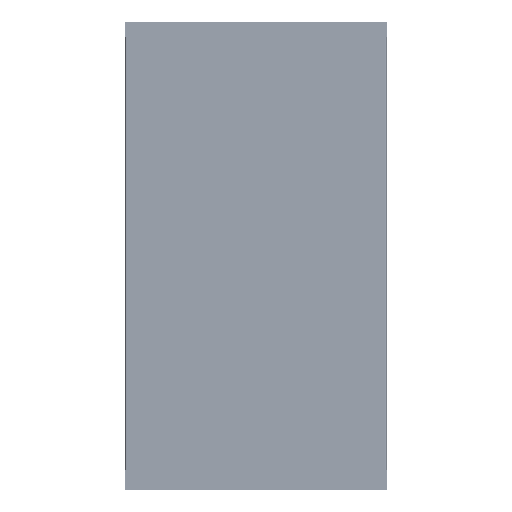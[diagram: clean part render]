
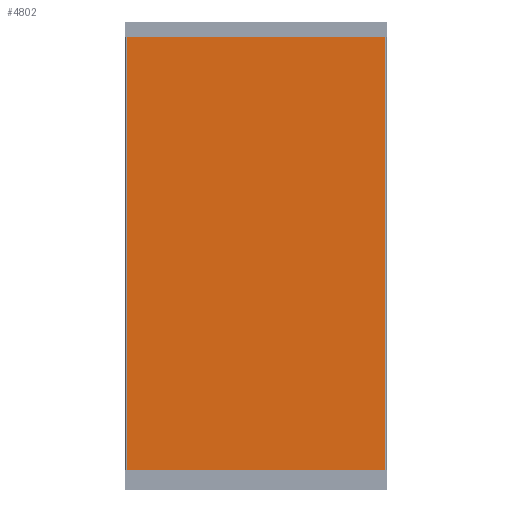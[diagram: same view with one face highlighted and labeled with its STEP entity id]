
A CAD part, left-side view. The second image highlights one B-rep face of the part: STEP entity #4802.
In plain terms, the highlighted planar face has unit normal (-1, 0, 0) as drawn and (0, -1, 0) by its records, which use the part's own axes.
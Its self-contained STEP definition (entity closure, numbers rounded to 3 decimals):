
#4802=ADVANCED_FACE('',(#9895,#9897,#9899),#9901,.T.);
#9895=FACE_BOUND('',#9896,.T.);
#9896=EDGE_LOOP('',(#33392,#33393,#33394,#33395,#33396,#33397,#33398,#33399,#33400,
#33401,#33402,#33403));
#9897=FACE_BOUND('',#9898,.T.);
#9898=EDGE_LOOP('',(#33404));
#9899=FACE_BOUND('',#9900,.T.);
#9900=EDGE_LOOP('',(#33405));
#9901=PLANE('',#9902);
#9902=AXIS2_PLACEMENT_3D('',#9903,#9904,#9905);
#9903=CARTESIAN_POINT('',(0.,-2.,0.));
#9904=DIRECTION('',(0.,-1.,0.));
#9905=DIRECTION('',(1.,0.,0.));
#33392=ORIENTED_EDGE('',*,*,#46708,.T.);
#33393=ORIENTED_EDGE('',*,*,#46709,.T.);
#33394=ORIENTED_EDGE('',*,*,#46710,.T.);
#33395=ORIENTED_EDGE('',*,*,#46711,.T.);
#33396=ORIENTED_EDGE('',*,*,#46712,.T.);
#33397=ORIENTED_EDGE('',*,*,#46713,.T.);
#33398=ORIENTED_EDGE('',*,*,#46714,.T.);
#33399=ORIENTED_EDGE('',*,*,#46611,.T.);
#33400=ORIENTED_EDGE('',*,*,#46715,.T.);
#33401=ORIENTED_EDGE('',*,*,#46716,.T.);
#33402=ORIENTED_EDGE('',*,*,#46717,.T.);
#33403=ORIENTED_EDGE('',*,*,#46718,.T.);
#33404=ORIENTED_EDGE('',*,*,#46719,.T.);
#33405=ORIENTED_EDGE('',*,*,#46720,.T.);
#46611=EDGE_CURVE('',#53201,#53199,#53202,.T.);
#46708=EDGE_CURVE('',#53305,#53306,#53307,.T.);
#46709=EDGE_CURVE('',#53306,#53308,#53309,.T.);
#46710=EDGE_CURVE('',#53308,#53310,#53311,.T.);
#46711=EDGE_CURVE('',#53310,#53312,#53313,.T.);
#46712=EDGE_CURVE('',#53312,#53314,#53315,.T.);
#46713=EDGE_CURVE('',#53314,#53316,#53317,.T.);
#46714=EDGE_CURVE('',#53316,#53201,#53318,.T.);
#46715=EDGE_CURVE('',#53199,#53319,#53320,.T.);
#46716=EDGE_CURVE('',#53319,#53321,#53322,.T.);
#46717=EDGE_CURVE('',#53321,#53323,#53324,.T.);
#46718=EDGE_CURVE('',#53323,#53305,#53325,.T.);
#46719=EDGE_CURVE('',#53326,#53326,#53327,.F.);
#46720=EDGE_CURVE('',#53328,#53328,#53329,.F.);
#53199=VERTEX_POINT('',#64667);
#53201=VERTEX_POINT('',#64672);
#53202=LINE('',#64673,#64674);
#53305=VERTEX_POINT('',#64977);
#53306=VERTEX_POINT('',#64978);
#53307=LINE('',#64979,#64980);
#53308=VERTEX_POINT('',#64982);
#53309=LINE('',#64983,#64984);
#53310=VERTEX_POINT('',#64986);
#53311=CIRCLE('',#64987,6.5);
#53312=VERTEX_POINT('',#64991);
#53313=LINE('',#64992,#64993);
#53314=VERTEX_POINT('',#64995);
#53315=LINE('',#64996,#64997);
#53316=VERTEX_POINT('',#64999);
#53317=LINE('',#65000,#65001);
#53318=LINE('',#65003,#65004);
#53319=VERTEX_POINT('',#65006);
#53320=LINE('',#65007,#65008);
#53321=VERTEX_POINT('',#65010);
#53322=LINE('',#65011,#65012);
#53323=VERTEX_POINT('',#65014);
#53324=CIRCLE('',#65015,6.5);
#53325=LINE('',#65019,#65020);
#53326=VERTEX_POINT('',#65022);
#53327=CIRCLE('',#65023,6.5);
#53328=VERTEX_POINT('',#65027);
#53329=CIRCLE('',#65028,6.5);
#64667=CARTESIAN_POINT('',(262.5,-2.,475.));
#64672=CARTESIAN_POINT('',(262.5,-2.,-475.));
#64673=CARTESIAN_POINT('',(262.5,-2.,-475.));
#64674=VECTOR('',#64675,1.);
#64675=DIRECTION('',(0.,0.,1.));
#64977=CARTESIAN_POINT('',(168.5,-2.,475.));
#64978=CARTESIAN_POINT('',(-168.5,-2.,475.));
#64979=CARTESIAN_POINT('',(168.5,-2.,475.));
#64980=VECTOR('',#64981,1.);
#64981=DIRECTION('',(-1.,0.,0.));
#64982=CARTESIAN_POINT('',(-168.5,-2.,460.));
#64983=CARTESIAN_POINT('',(-168.5,-2.,475.));
#64984=VECTOR('',#64985,1.);
#64985=DIRECTION('',(0.,0.,-1.));
#64986=CARTESIAN_POINT('',(-181.5,-2.,460.));
#64987=AXIS2_PLACEMENT_3D('',#64988,#64989,#64990);
#64988=CARTESIAN_POINT('',(-175.,-2.,460.));
#64989=DIRECTION('',(0.,1.,0.));
#64990=DIRECTION('',(1.,0.,0.));
#64991=CARTESIAN_POINT('',(-181.5,-2.,475.));
#64992=CARTESIAN_POINT('',(-181.5,-2.,460.));
#64993=VECTOR('',#64994,1.);
#64994=DIRECTION('',(0.,0.,1.));
#64995=CARTESIAN_POINT('',(-262.5,-2.,475.));
#64996=CARTESIAN_POINT('',(-181.5,-2.,475.));
#64997=VECTOR('',#64998,1.);
#64998=DIRECTION('',(-1.,0.,0.));
#64999=CARTESIAN_POINT('',(-262.5,-2.,-475.));
#65000=CARTESIAN_POINT('',(-262.5,-2.,475.));
#65001=VECTOR('',#65002,1.);
#65002=DIRECTION('',(0.,0.,-1.));
#65003=CARTESIAN_POINT('',(-262.5,-2.,-475.));
#65004=VECTOR('',#65005,1.);
#65005=DIRECTION('',(1.,0.,0.));
#65006=CARTESIAN_POINT('',(181.5,-2.,475.));
#65007=CARTESIAN_POINT('',(262.5,-2.,475.));
#65008=VECTOR('',#65009,1.);
#65009=DIRECTION('',(-1.,0.,0.));
#65010=CARTESIAN_POINT('',(181.5,-2.,460.));
#65011=CARTESIAN_POINT('',(181.5,-2.,475.));
#65012=VECTOR('',#65013,1.);
#65013=DIRECTION('',(0.,0.,-1.));
#65014=CARTESIAN_POINT('',(168.5,-2.,460.));
#65015=AXIS2_PLACEMENT_3D('',#65016,#65017,#65018);
#65016=CARTESIAN_POINT('',(175.,-2.,460.));
#65017=DIRECTION('',(0.,1.,0.));
#65018=DIRECTION('',(1.,0.,0.));
#65019=CARTESIAN_POINT('',(168.5,-2.,460.));
#65020=VECTOR('',#65021,1.);
#65021=DIRECTION('',(0.,0.,1.));
#65022=CARTESIAN_POINT('',(175.,-2.,-466.5));
#65023=AXIS2_PLACEMENT_3D('',#65024,#65025,#65026);
#65024=CARTESIAN_POINT('',(175.,-2.,-460.));
#65025=DIRECTION('',(0.,-1.,0.));
#65026=DIRECTION('',(0.,0.,-1.));
#65027=CARTESIAN_POINT('',(-175.,-2.,-466.5));
#65028=AXIS2_PLACEMENT_3D('',#65029,#65030,#65031);
#65029=CARTESIAN_POINT('',(-175.,-2.,-460.));
#65030=DIRECTION('',(0.,-1.,0.));
#65031=DIRECTION('',(0.,0.,-1.));
